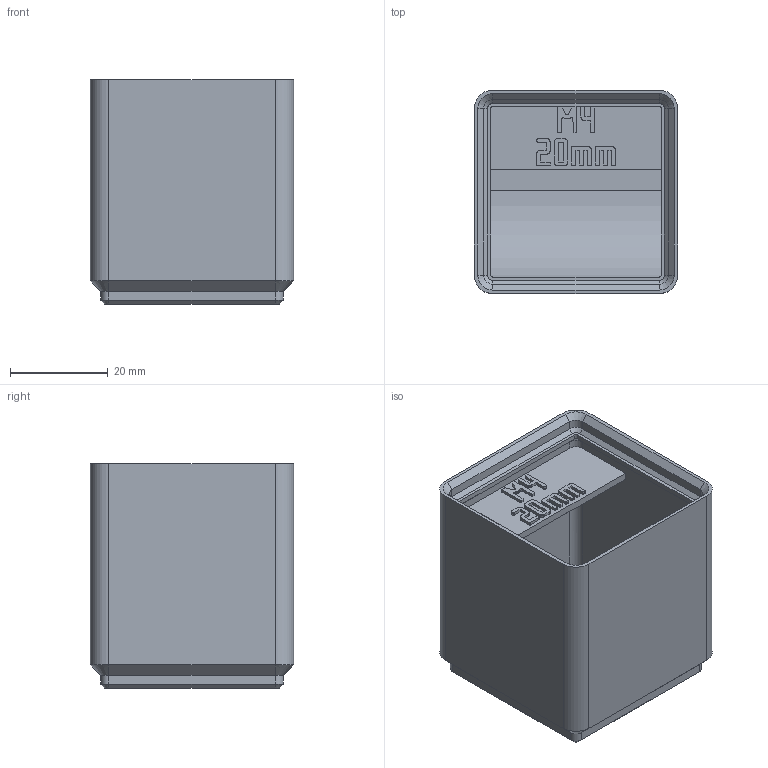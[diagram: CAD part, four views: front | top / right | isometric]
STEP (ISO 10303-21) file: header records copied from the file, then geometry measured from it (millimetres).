
FILE_DESCRIPTION(('Open CASCADE Model'),'2;1');
FILE_NAME('Open CASCADE Shape Model','2026-11-03T10:25:11',('Author'),( 'Open CASCADE'),'Open CASCADE STEP processor 8.0','build123d', 'Unknown');
FILE_SCHEMA(('AUTOMOTIVE_DESIGN { 1 0 10303 214 1 1 1 1 }'));
Length unit declared in the file: millimetre
Products named in the file (1): COMPOUND
Bounding box: 41.5 x 41.5 x 45.8 mm (x, y, z)
Volume: 30323.7 mm3; surface area: 16394 mm2
Topology: 1 solids, 1 shells, 642 faces, 1837 edges, 1206 vertices
Faces by surface type: plane 599, cylinder 23, cone 20
Entity records: 43278 total; most frequent: CARTESIAN_POINT 8890, DIRECTION 5543, LINE 4129, VECTOR 4129, ORIENTED_EDGE 3674, PCURVE 3674, DEFINITIONAL_REPRESENTATION 3674, EDGE_CURVE 1837
